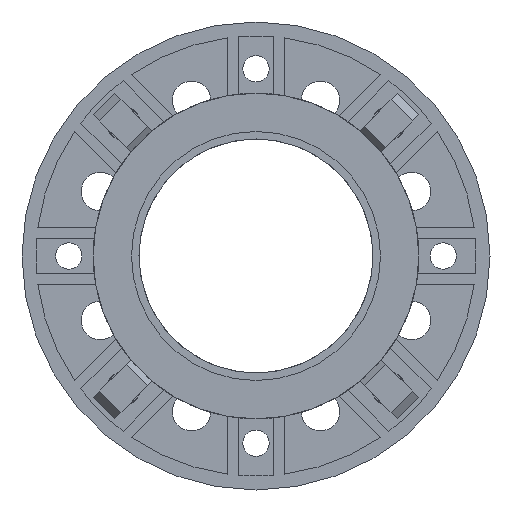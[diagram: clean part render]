
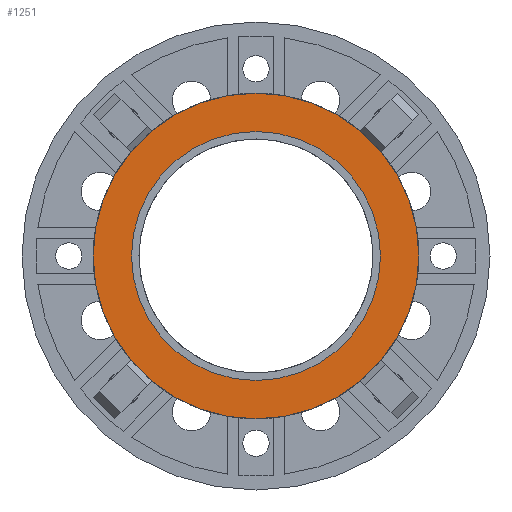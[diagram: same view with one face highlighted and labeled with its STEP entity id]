
A CAD part, front view. The second image highlights one B-rep face of the part: STEP entity #1251.
In plain terms, the highlighted planar face has unit normal (0, -1, 0).
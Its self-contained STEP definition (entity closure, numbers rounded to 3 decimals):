
#492 = ORIENTED_EDGE ( 'NONE', *, *, #11553, .T. ) ;
#1251 = ADVANCED_FACE ( 'Defeatured_0_237', ( #3947, #16263 ), #9975, .F. ) ;
#1494 = VERTEX_POINT ( 'NONE', #11042 ) ;
#2491 = CARTESIAN_POINT ( 'NONE',  ( 0., -3., 0. ) ) ;
#3507 = CIRCLE ( 'NONE', #6396, 66.5 ) ;
#3707 = DIRECTION ( 'NONE',  ( 0., 0., 1. ) ) ;
#3751 = AXIS2_PLACEMENT_3D ( 'NONE', #13938, #8900, #3707 ) ;
#3947 = FACE_BOUND ( 'NONE', #9261, .T. ) ;
#3949 = CARTESIAN_POINT ( 'NONE',  ( 0., -3., 66.5 ) ) ;
#4621 = DIRECTION ( 'NONE',  ( 0., 0., 1. ) ) ;
#4777 = DIRECTION ( 'NONE',  ( 0., 1., 0. ) ) ;
#5043 = CIRCLE ( 'NONE', #11118, 87. ) ;
#5276 = CIRCLE ( 'NONE', #14509, 66.5 ) ;
#6124 = CARTESIAN_POINT ( 'NONE',  ( 0., -3., -66.5 ) ) ;
#6207 = DIRECTION ( 'NONE',  ( 0., 0., 1. ) ) ;
#6396 = AXIS2_PLACEMENT_3D ( 'NONE', #15770, #4777, #4621 ) ;
#6448 = ORIENTED_EDGE ( 'NONE', *, *, #14063, .T. ) ;
#6747 = VERTEX_POINT ( 'NONE', #10527 ) ;
#7451 = AXIS2_PLACEMENT_3D ( 'NONE', #8874, #14990, #14914 ) ;
#8874 = CARTESIAN_POINT ( 'NONE',  ( 0., -3., 0. ) ) ;
#8900 = DIRECTION ( 'NONE',  ( 0., 1., 0. ) ) ;
#8931 = VERTEX_POINT ( 'NONE', #3949 ) ;
#9141 = CARTESIAN_POINT ( 'NONE',  ( 0., -3., 0. ) ) ;
#9261 = EDGE_LOOP ( 'NONE', ( #492, #6448 ) ) ;
#9975 = PLANE ( 'NONE',  #3751 ) ;
#10277 = VERTEX_POINT ( 'NONE', #6124 ) ;
#10356 = CIRCLE ( 'NONE', #7451, 87. ) ;
#10394 = DIRECTION ( 'NONE',  ( 0., 1., 0. ) ) ;
#10527 = CARTESIAN_POINT ( 'NONE',  ( 0., -3., 87. ) ) ;
#11042 = CARTESIAN_POINT ( 'NONE',  ( 0., -3., -87. ) ) ;
#11118 = AXIS2_PLACEMENT_3D ( 'NONE', #9141, #10394, #14102 ) ;
#11553 = EDGE_CURVE ( 'Defeatured_0_237+Defeatured_0_392+Defeatured_0_392+Defeatured_0_392', #10277, #8931, #5276, .T. ) ;
#11651 = ORIENTED_EDGE ( 'NONE', *, *, #12105, .F. ) ;
#11949 = EDGE_LOOP ( 'NONE', ( #16058, #11651 ) ) ;
#12105 = EDGE_CURVE ( 'Defeatured_0_238+Defeatured_0_237+Defeatured_0_237+Defeatured_0_237', #6747, #1494, #5043, .T. ) ;
#13938 = CARTESIAN_POINT ( 'NONE',  ( 0., -3., 0. ) ) ;
#14063 = EDGE_CURVE ( 'Defeatured_0_237+Defeatured_0_392+Defeatured_0_392+Defeatured_0_392', #8931, #10277, #3507, .T. ) ;
#14102 = DIRECTION ( 'NONE',  ( 0., 0., 1. ) ) ;
#14509 = AXIS2_PLACEMENT_3D ( 'NONE', #2491, #15125, #6207 ) ;
#14914 = DIRECTION ( 'NONE',  ( 0., 0., 1. ) ) ;
#14990 = DIRECTION ( 'NONE',  ( 0., 1., 0. ) ) ;
#15125 = DIRECTION ( 'NONE',  ( 0., 1., 0. ) ) ;
#15738 = EDGE_CURVE ( 'Defeatured_0_238+Defeatured_0_237+Defeatured_0_237+Defeatured_0_237', #1494, #6747, #10356, .T. ) ;
#15770 = CARTESIAN_POINT ( 'NONE',  ( 0., -3., 0. ) ) ;
#16058 = ORIENTED_EDGE ( 'NONE', *, *, #15738, .F. ) ;
#16263 = FACE_OUTER_BOUND ( 'NONE', #11949, .T. ) ;
